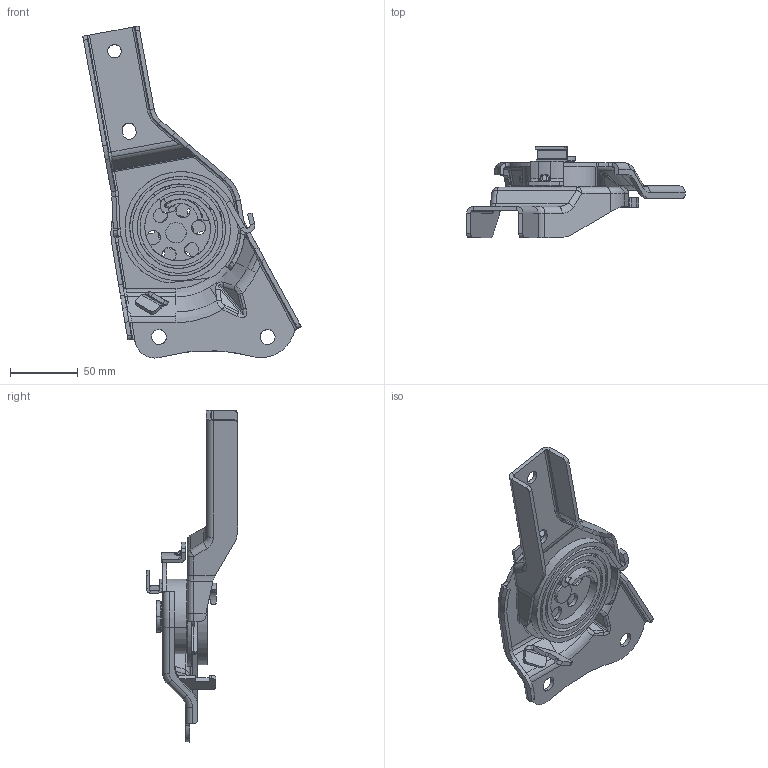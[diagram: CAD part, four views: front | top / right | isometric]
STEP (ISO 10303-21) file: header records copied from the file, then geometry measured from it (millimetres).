
FILE_DESCRIPTION(('CATIA V5 STEP Exchange'),'2;1');
FILE_NAME('F:\重卡项目整理未完待续\03-一汽项目\J6G-旋转副驾\J6G样件数据\单边调角器-20230706\副司机副边调角器总成-SHT0016161.stp','2023-07-06T05:31:15+00:00',('none'),('none'),'CATIA Version 5 Release 20 GA (IN-10)','CATIA V5 STEP AP214','none');
FILE_SCHEMA(('AUTOMOTIVE_DESIGN { 1 0 10303 214 1 1 1 1 }'));
Length unit declared in the file: millimetre
Products named in the file (13): SHT0016161; SQXM3000-6805535; SQXM3000-6805531; B406805215; SHT0010871; SQX3000-6805101; H4B-6805108; H4B-6805110; SQXM3000-6805512; MYM-14-14; SQXM3000-6805513; SQXM3000-6805514; H4B-6805115
Assembly tree (12 placements, depth 3):
  SHT0016161
    SQXM3000-6805535
      SQXM3000-6805531
      B406805215
      SHT0010871
    SQX3000-6805101
    H4B-6805108
    H4B-6805110
    SQXM3000-6805512
    MYM-14-14
    SQXM3000-6805513
    SQXM3000-6805514
    H4B-6805115
Bounding box: 160.83 x 67.31 x 244.56 mm (x, y, z)
Volume: 149978.2 mm3; surface area: 106402.2 mm2
Topology: 11 solids, 11 shells, 565 faces, 1448 edges, 903 vertices
Faces by surface type: cylinder 265, plane 128, bspline 93, cone 29, torus 27, extrusion 17, sphere 6
Entity records: 26478 total; most frequent: CARTESIAN_POINT 13883, ORIENTED_EDGE 2884, DIRECTION 1835, EDGE_CURVE 1442, VERTEX_POINT 903, AXIS2_PLACEMENT_3D 817, EDGE_LOOP 641, B_SPLINE_CURVE_WITH_KNOTS 573
